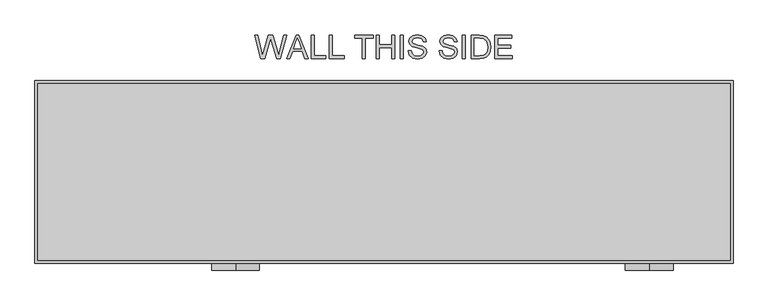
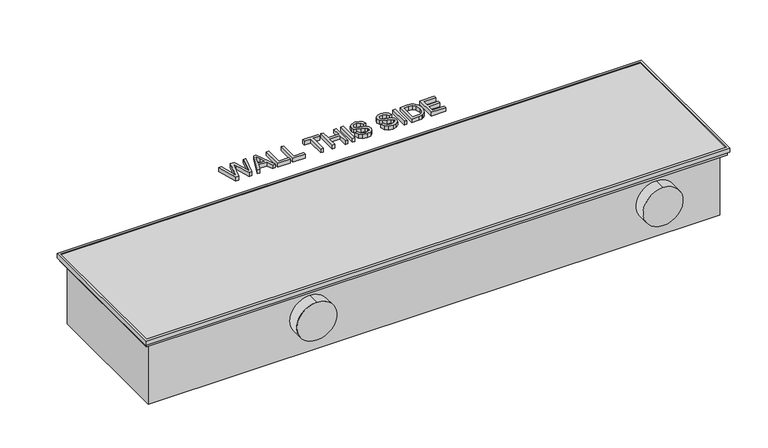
"""IFC4 building model written with IfcOpenShell, lengths in millimetres: unitary equipment geometry, VERANO CVK4P-II : CVK4P-18/35-II."""

import ifcopenshell
import ifcopenshell.guid

model = None  # the IFC model being written
_history = None  # IfcOwnerHistory: only IFC2X3 demands one
_inside = {}  # id of a spatial element -> (the spatial element, [elements in it])
_under = {}  # id of a project, library or spatial element -> (it, [spatial elements below it])
_declared = {}  # id of a project -> (the project, [libraries it declares])
_typed = {}  # id of a type object -> (the type object, [elements of that type])
_made_of = {}  # id of a material, layer set ... -> (it, [elements and type objects made of it])


def new_model(schema):
    """Start an empty IFC model of exactly this schema.

    Asked for "IFC4X3", IfcOpenShell would pick the latest addendum, in which some entities
    have other attributes; the version numbers below select the first issue.
    IFC2X3 requires an IfcOwnerHistory on every rooted entity: one is made here for all.
    """
    global model, _history
    if schema == "IFC4X3":
        model = ifcopenshell.file(schema_version=(4, 3, 0, 0))
    else:
        model = ifcopenshell.file(schema=schema)
    _inside.clear()
    _under.clear()
    _declared.clear()
    _typed.clear()
    _made_of.clear()
    _history = None
    if model.schema == "IFC2X3":
        org = make("IfcOrganization", Name="unknown")
        user = make(
            "IfcPersonAndOrganization",
            ThePerson=make("IfcPerson", FamilyName="unknown"),
            TheOrganization=org,
        )
        app = make(
            "IfcApplication",
            ApplicationDeveloper=org,
            Version="unknown",
            ApplicationFullName="unknown",
            ApplicationIdentifier="unknown",
        )
        _history = make(
            "IfcOwnerHistory",
            OwningUser=user,
            OwningApplication=app,
            ChangeAction="ADDED",
            CreationDate=0,
        )
    return model


def make(cls, **values):
    """One entity of the class cls with the attributes given. An attribute that is None is left unset."""
    return model.create_entity(
        cls, **{name: value for name, value in values.items() if value is not None}
    )


def rooted(cls, **values):
    """An entity with a GlobalId (a new one), such as an element, a storey or a relation."""
    return make(cls, GlobalId=ifcopenshell.guid.new(), OwnerHistory=_history, **values)


def si_unit(unit_type, name, prefix=None):
    """IfcSIUnit, for example si_unit("LENGTHUNIT", "METRE", prefix="MILLI")."""
    return make("IfcSIUnit", UnitType=unit_type, Prefix=prefix, Name=name)


def assignment(units):
    """IfcUnitAssignment: the units of a project."""
    return None if units is None else make("IfcUnitAssignment", Units=units)


def point(xyz):
    """IfcCartesianPoint."""
    return None if xyz is None else make("IfcCartesianPoint", Coordinates=xyz)


def direction(xyz):
    """IfcDirection."""
    return None if xyz is None else make("IfcDirection", DirectionRatios=xyz)


def frame(location, z_axis=None, x_axis=None):
    """IfcAxis2Placement3D, a coordinate frame: its origin and axes. An axis left out is left unset."""
    return make(
        "IfcAxis2Placement3D",
        Location=point(location),
        Axis=direction(z_axis),
        RefDirection=direction(x_axis),
    )


def frame_2d(location, x_axis=None):
    """IfcAxis2Placement2D, a coordinate frame in the plane: its origin and x axis."""
    return make(
        "IfcAxis2Placement2D", Location=point(location), RefDirection=direction(x_axis)
    )


def origin():
    """The frame at (0, 0, 0) with its axes left unset."""
    return frame((0.0, 0.0, 0.0))


def origin_with_axes():
    """The frame at (0, 0, 0) with the z axis (0, 0, 1) and the x axis (1, 0, 0) written out."""
    return frame((0.0, 0.0, 0.0), z_axis=(0.0, 0.0, 1.0), x_axis=(1.0, 0.0, 0.0))


def place(relative_to, where):
    """IfcLocalPlacement: puts the frame where relative to a parent placement (None: the world)."""
    return make(
        "IfcLocalPlacement", PlacementRelTo=relative_to, RelativePlacement=where
    )


def context(
    kind, dimensions, precision=None, world=None, true_north=None, identifier=None
):
    """IfcGeometricRepresentationContext, for example the 3D "Model" context."""
    return make(
        "IfcGeometricRepresentationContext",
        ContextIdentifier=identifier,
        ContextType=kind,
        CoordinateSpaceDimension=dimensions,
        Precision=precision,
        WorldCoordinateSystem=world,
        TrueNorth=true_north,
    )


def project(units=None, contexts=None):
    """IfcProject with its units and contexts."""
    return rooted(
        "IfcProject",
        Name="project",
        RepresentationContexts=contexts,
        UnitsInContext=assignment(units),
    )


def spatial(cls, under=None, at=None, **own):
    """A site, building, storey or space (cls), placed at a placement, below another one or the project."""
    s = rooted(cls, ObjectPlacement=at, **own)
    if under is not None:
        _under.setdefault(under.id(), (under, []))[1].append(s)
    return s


def polyline(points):
    """IfcPolyline through the points."""
    return make("IfcPolyline", Points=[point(p) for p in points])


def circle_curve(where, radius):
    """IfcCircle in the frame where."""
    return make("IfcCircle", Position=where, Radius=radius)


def trimmed(basis, trim1, trim2, sense, master):
    """IfcTrimmedCurve: the piece of a basis curve between two trims."""
    return make(
        "IfcTrimmedCurve",
        BasisCurve=basis,
        Trim1=trim1,
        Trim2=trim2,
        SenseAgreement=sense,
        MasterRepresentation=master,
    )


def segment(curve, same_sense, transition):
    """IfcCompositeCurveSegment."""
    return make(
        "IfcCompositeCurveSegment",
        Transition=transition,
        SameSense=same_sense,
        ParentCurve=curve,
    )


def composite_curve(segments, self_intersect=None):
    """IfcCompositeCurve: segments joined end to end."""
    return make("IfcCompositeCurve", Segments=segments, SelfIntersect=self_intersect)


def outline(outer, holes=None, kind="AREA"):
    """IfcArbitraryClosedProfileDef: a profile drawn as a closed curve; with holes, ...WithVoids."""
    if holes is None:
        return make("IfcArbitraryClosedProfileDef", ProfileType=kind, OuterCurve=outer)
    return make(
        "IfcArbitraryProfileDefWithVoids",
        ProfileType=kind,
        OuterCurve=outer,
        InnerCurves=holes,
    )


def extrude(swept, where, along, depth):
    """IfcExtrudedAreaSolid: the profile swept, set in the frame where, extruded along a direction by depth."""
    return make(
        "IfcExtrudedAreaSolid",
        SweptArea=swept,
        Position=where,
        ExtrudedDirection=direction(along),
        Depth=depth,
    )


def faces_of(points, faces, orient=None, outer=None):
    """IfcFace entities. A face is a list of loops; a loop is a list of indices into points, from 0.

    orient and outer hold one flag for each loop. By default every Orientation is true, the
    first loop of a face is its IfcFaceOuterBound and the others are IfcFaceBound.
    """
    made = []
    for i, loops in enumerate(faces):
        bounds = []
        for j, loop in enumerate(loops):
            is_outer = j == 0 if outer is None else outer[i][j]
            bounds.append(
                make(
                    "IfcFaceOuterBound" if is_outer else "IfcFaceBound",
                    Bound=make("IfcPolyLoop", Polygon=[points[k] for k in loop]),
                    Orientation=True if orient is None else orient[i][j],
                )
            )
        made.append(make("IfcFace", Bounds=bounds))
    return made


def faceted_brep(points, faces, orient=None, outer=None, voids=None):
    """IfcFacetedBrep: a solid bounded by flat faces; with voids (closed shells), ...WithVoids."""
    shared = [point(p) for p in points]
    hull = make("IfcClosedShell", CfsFaces=faces_of(shared, faces, orient, outer))
    if voids is None:
        return make("IfcFacetedBrep", Outer=hull)
    return make(
        "IfcFacetedBrepWithVoids",
        Outer=hull,
        Voids=[
            make(cls, CfsFaces=faces_of(shared, fs, o, b)) for cls, fs, o, b in voids
        ],
    )


def shape(context_of_items, identifier, shape_type, items):
    """IfcShapeRepresentation: the items that make up one representation, for example the "Body"."""
    return make(
        "IfcShapeRepresentation",
        ContextOfItems=context_of_items,
        RepresentationIdentifier=identifier,
        RepresentationType=shape_type,
        Items=items,
    )


def source(mapping_origin, context_of_items, identifier, shape_type, items):
    """IfcRepresentationMap: a shape defined once, which mapped items show again and again."""
    return make(
        "IfcRepresentationMap",
        MappingOrigin=mapping_origin,
        MappedRepresentation=shape(context_of_items, identifier, shape_type, items),
    )


def transform(
    local_origin,
    x_axis=None,
    y_axis=None,
    z_axis=None,
    scale=None,
    scale2=None,
    scale3=None,
    uniform=True,
):
    """IfcCartesianTransformationOperator3D, or its non-uniform kind. x_axis, y_axis, z_axis: its Axis1, 2, 3."""
    if uniform:
        return make(
            "IfcCartesianTransformationOperator3D",
            Axis1=direction(x_axis),
            Axis2=direction(y_axis),
            LocalOrigin=point(local_origin),
            Scale=scale,
            Axis3=direction(z_axis),
        )
    return make(
        "IfcCartesianTransformationOperator3DnonUniform",
        Axis1=direction(x_axis),
        Axis2=direction(y_axis),
        LocalOrigin=point(local_origin),
        Scale=scale,
        Axis3=direction(z_axis),
        Scale2=scale2,
        Scale3=scale3,
    )


def mapped(mapping_source, mapping_target):
    """IfcMappedItem: shows the shape of a source again, moved by a transform."""
    return make(
        "IfcMappedItem", MappingSource=mapping_source, MappingTarget=mapping_target
    )


def made_of(thing, what):
    """Note that an element or type object is made of a material, layer set ...; save() writes the relation."""
    if what is not None:
        _made_of.setdefault(what.id(), (what, []))[1].append(thing)
    return thing


def element(
    cls,
    number,
    at=None,
    inside=None,
    cuts=None,
    type_object=None,
    material=None,
    context=None,
    identifier="Body",
    shape_type=None,
    held_by="IfcProductDefinitionShape",
    body=None,
    shapes=None,
    **own,
):
    """One element of the class cls, such as IfcWall. Its Tag is "e" and its number.

    at: its placement. inside: the storey or other place that contains it. cuts: it is an
    opening in that element (IfcRelVoidsElement). A single representation is given by context,
    identifier, shape_type and body (its items); several are given by shapes. held_by: the class
    of the entity that holds the representations. save() writes the other relations.
    """
    e = rooted(cls, Tag="e%d" % number, ObjectPlacement=at, **own)
    if body is not None:
        shapes = [shape(context, identifier, shape_type, body)]
    if shapes is not None:
        e.Representation = make(held_by, Representations=shapes)
    if inside is not None:
        _inside.setdefault(inside.id(), (inside, []))[1].append(e)
    if cuts is not None:
        rooted(
            "IfcRelVoidsElement", RelatingBuildingElement=cuts, RelatedOpeningElement=e
        )
    if type_object is not None:
        _typed.setdefault(type_object.id(), (type_object, []))[1].append(e)
    return made_of(e, material)


def aggregate(whole, parts):
    """IfcRelAggregates: a whole, such as a stair, and the parts it consists of."""
    return rooted("IfcRelAggregates", RelatingObject=whole, RelatedObjects=parts)


def save(model, path):
    """Write the relations noted so far, then the file.

    IfcRelAggregates (storeys below a building ...), IfcRelContainedInSpatialStructure (elements
    in a storey), IfcRelDefinesByType, IfcRelAssociatesMaterial and IfcRelDeclares: one each for
    every whole, place, type object, material and project.
    """
    for whole, parts in _under.values():
        aggregate(whole, parts)
    for where, things in _inside.values():
        rooted(
            "IfcRelContainedInSpatialStructure",
            RelatedElements=things,
            RelatingStructure=where,
        )
    for kind, things in _typed.values():
        rooted("IfcRelDefinesByType", RelatedObjects=things, RelatingType=kind)
    for what, things in _made_of.values():
        rooted("IfcRelAssociatesMaterial", RelatedObjects=things, RelatingMaterial=what)
    for by, libraries in _declared.values():
        rooted("IfcRelDeclares", RelatingContext=by, RelatedDefinitions=libraries)
    model.write(path)


def unitary_equipment_7f352352(model_context):
    return source(origin(), model_context, "Body", "SolidModel", [
        extrude(outline(composite_curve([segment(trimmed(circle_curve(frame_2d((-84.0, 554.0)), 50.0), [point((-34.0, 554.0))], [point((-134.0, 554.0))], False, "CARTESIAN"), True, "CONTINUOUS"), segment(trimmed(circle_curve(frame_2d((-84.0, 554.0)), 50.0), [point((-134.0, 554.0))], [point((-34.0, 554.0))], False, "CARTESIAN"), True, "CONTINUOUS")], self_intersect=False)), frame((0.0, -205.0, 0.0), z_axis=(0.0, 1.0, 0.0), x_axis=(0.0, 0.0, 1.0)), (0.0, 0.0, 1.0), 30.0),
        extrude(outline(composite_curve([segment(trimmed(circle_curve(frame_2d((-84.0, -310.0)), 50.0), [point((-34.0, -310.0))], [point((-134.0, -310.0))], False, "CARTESIAN"), True, "CONTINUOUS"), segment(trimmed(circle_curve(frame_2d((-84.0, -310.0)), 50.0), [point((-134.0, -310.0))], [point((-34.0, -310.0))], False, "CARTESIAN"), True, "CONTINUOUS")], self_intersect=False)), frame((0.0, -205.0, 0.0), z_axis=(0.0, 1.0, 0.0), x_axis=(0.0, 0.0, 1.0)), (0.0, 0.0, 1.0), 30.0),
        extrude(outline(composite_curve([segment(trimmed(circle_curve(frame_2d((25.0, -81.0)), 10.0), [point((25.0, -71.0))], [point((25.0, -91.0))], False, "CARTESIAN"), True, "CONTINUOUS"), segment(trimmed(circle_curve(frame_2d((25.0, -81.0)), 10.0), [point((25.0, -91.0))], [point((25.0, -71.0))], False, "CARTESIAN"), True, "CONTINUOUS")], self_intersect=False)), frame((-577.0, 0.0, 0.0), z_axis=(1.0, 0.0, 0.0), x_axis=(0.0, 1.0, 0.0)), (0.0, 0.0, 1.0), 70.0),
        extrude(outline(composite_curve([segment(trimmed(circle_curve(frame_2d((155.0, -103.0)), 10.0), [point((155.0, -93.0))], [point((155.0, -113.0))], False, "CARTESIAN"), True, "CONTINUOUS"), segment(trimmed(circle_curve(frame_2d((155.0, -103.0)), 10.0), [point((155.0, -113.0))], [point((155.0, -93.0))], False, "CARTESIAN"), True, "CONTINUOUS")], self_intersect=False)), frame((-577.0, 0.0, 0.0), z_axis=(1.0, 0.0, 0.0), x_axis=(0.0, 1.0, 0.0)), (0.0, 0.0, 1.0), 70.0),
        extrude(outline(polyline([(-517.0, -25.0), (-517.0, -5.0), (-507.0, -5.0), (-507.0, -25.0), (-517.0, -25.0)])), frame((0.0, 0.0, -170.0), z_axis=(0.0, 0.0, 1.0), x_axis=(1.0, 0.0, 0.0)), (0.0, 0.0, 1.0), 10.0),
        faceted_brep([(723.0, -185.0, -16.5), (723.0, -185.0, 1.5), (723.0, 185.0, 1.5), (723.0, 185.0, -16.5), (724.0, -186.0, 0.0), (724.0, -186.0, -16.5), (724.0, 186.0, -16.5), (724.0, 186.0, 0.0), (728.0, -190.0, -10.0), (728.0, -190.0, 0.0), (728.0, 190.0, 0.0), (728.0, 190.0, -10.0), (729.0, -191.0, 1.5), (729.0, -191.0, -10.0), (729.0, 191.0, -10.0), (729.0, 191.0, 1.5), (-723.0, 185.0, 1.5), (-723.0, 185.0, -16.5), (-724.0, 186.0, -16.5), (-724.0, 186.0, 0.0), (-728.0, 190.0, 0.0), (-728.0, 190.0, -10.0), (-729.0, 191.0, -10.0), (-729.0, 191.0, 1.5), (-723.0, -185.0, 1.5), (-723.0, -185.0, -16.5), (-724.0, -186.0, -16.5), (-724.0, -186.0, 0.0), (-728.0, -190.0, 0.0), (-728.0, -190.0, -10.0), (-729.0, -191.0, -10.0), (-729.0, -191.0, 1.5)], [[[0, 1, 2, 3]], [[4, 5, 6, 7]], [[8, 9, 10, 11]], [[12, 13, 14, 15]], [[3, 2, 16, 17]], [[7, 6, 18, 19]], [[11, 10, 20, 21]], [[15, 14, 22, 23]], [[17, 16, 24, 25]], [[19, 18, 26, 27]], [[21, 20, 28, 29]], [[23, 22, 30, 31]], [[15, 23, 31, 12], [1, 24, 16, 2]], [[25, 24, 1, 0]], [[5, 26, 18, 6], [3, 17, 25, 0]], [[27, 26, 5, 4]], [[9, 28, 20, 10], [7, 19, 27, 4]], [[29, 28, 9, 8]], [[13, 30, 22, 14], [11, 21, 29, 8]], [[31, 30, 13, 12]]]),
        extrude(outline(composite_curve([segment(trimmed(circle_curve(frame_2d((28.0, -47.0)), 10.0), [point((28.0, -37.0))], [point((28.0, -57.0))], False, "CARTESIAN"), True, "CONTINUOUS"), segment(trimmed(circle_curve(frame_2d((28.0, -47.0)), 10.0), [point((28.0, -57.0))], [point((28.0, -37.0))], False, "CARTESIAN"), True, "CONTINUOUS")], self_intersect=False)), frame((-577.0, 0.0, 0.0), z_axis=(1.0, 0.0, 0.0), x_axis=(0.0, 1.0, 0.0)), (0.0, 0.0, 1.0), 70.0),
        extrude(outline(composite_curve([segment(trimmed(circle_curve(frame_2d((113.0, -114.0)), 10.0), [point((113.0, -104.0))], [point((113.0, -124.0))], False, "CARTESIAN"), True, "CONTINUOUS"), segment(trimmed(circle_curve(frame_2d((113.0, -114.0)), 10.0), [point((113.0, -124.0))], [point((113.0, -104.0))], False, "CARTESIAN"), True, "CONTINUOUS")], self_intersect=False)), frame((-577.0, 0.0, 0.0), z_axis=(1.0, 0.0, 0.0), x_axis=(0.0, 1.0, 0.0)), (0.0, 0.0, 1.0), 70.0),
        extrude(outline(polyline([(-256.9591346, 237.0), (-270.3846154, 286.2307692), (-264.0384615, 286.2307692), (-256.25, 253.875), (-253.8461538, 243.8870192), (-251.2740385, 252.7211538), (-241.5144231, 286.2307692), (-232.3677885, 286.2307692), (-225.2764423, 261.9399038), (-220.0, 243.8870192), (-217.6682692, 253.5865385), (-209.8076923, 286.2307692), (-203.4615385, 286.2307692), (-216.8990385, 237.0), (-223.4735577, 237.0), (-235.2764423, 274.9807692), (-236.9230769, 280.28125), (-238.7740385, 273.8990385), (-249.53125, 237.0), (-256.9591346, 237.0)])), origin_with_axes(), (0.0, 0.0, 1.0), 10.0),
        extrude(outline(polyline([(-203.0408654, 237.0), (-183.3894231, 286.2307692), (-178.1490385, 286.2307692), (-158.4975962, 237.0), (-165.0, 237.0), (-170.6370192, 252.3846154), (-190.9134615, 252.3846154), (-196.5384615, 237.0), (-203.0408654, 237.0)]), holes=[polyline([(-188.6538462, 258.5384615), (-172.8846154, 258.5384615), (-177.3197115, 270.6418269), (-180.7692308, 280.0769231), (-183.8341346, 271.6995192), (-188.6538462, 258.5384615)])]), origin_with_axes(), (0.0, 0.0, 1.0), 10.0),
        extrude(outline(polyline([(-151.9230769, 237.0), (-151.9230769, 286.2307692), (-145.7692308, 286.2307692), (-145.7692308, 243.1538462), (-121.1538462, 243.1538462), (-121.1538462, 237.0), (-151.9230769, 237.0)])), origin_with_axes(), (0.0, 0.0, 1.0), 10.0),
        extrude(outline(polyline([(-114.2307692, 237.0), (-114.2307692, 286.2307692), (-108.0769231, 286.2307692), (-108.0769231, 243.1538462), (-83.4615385, 243.1538462), (-83.4615385, 237.0), (-114.2307692, 237.0)])), origin_with_axes(), (0.0, 0.0, 1.0), 10.0),
        extrude(outline(polyline([(-45.0, 237.0), (-45.0, 280.0769231), (-61.1538462, 280.0769231), (-61.1538462, 286.2307692), (-22.6923077, 286.2307692), (-22.6923077, 280.0769231), (-38.8461538, 280.0769231), (-38.8461538, 237.0), (-45.0, 237.0)])), origin_with_axes(), (0.0, 0.0, 1.0), 10.0),
        extrude(outline(polyline([(-15.7692308, 237.0), (-15.7692308, 286.2307692), (-9.6153846, 286.2307692), (-9.6153846, 266.2307692), (16.5384615, 266.2307692), (16.5384615, 286.2307692), (22.6923077, 286.2307692), (22.6923077, 237.0), (16.5384615, 237.0), (16.5384615, 260.0769231), (-9.6153846, 260.0769231), (-9.6153846, 237.0), (-15.7692308, 237.0)])), origin_with_axes(), (0.0, 0.0, 1.0), 10.0),
        extrude(outline(polyline([(34.2307692, 237.0), (34.2307692, 286.2307692), (40.3846154, 286.2307692), (40.3846154, 237.0), (34.2307692, 237.0)])), origin_with_axes(), (0.0, 0.0, 1.0), 10.0),
        extrude(outline(polyline([(50.3846154, 253.9230769), (56.5384615, 253.9230769), (58.5216346, 247.7632212), (63.3653846, 243.8689904), (70.7451923, 242.3846154), (77.1754808, 243.5084135), (81.328125, 246.5973558), (82.6923077, 250.7259615), (81.6706731, 254.5661058), (77.4879808, 257.3605769), (68.5276442, 259.7103365), (58.8822115, 262.7451923), (53.6478365, 267.3245192), (51.9230769, 273.4423077), (54.0564904, 280.4074519), (60.2884615, 285.3233173), (69.4110577, 287.0), (79.1466346, 285.2451923), (85.6370192, 280.0889423), (88.0769231, 272.3846154), (81.9230769, 272.3846154), (78.4375, 278.7067308), (69.6514423, 280.8461538), (60.8413462, 278.7307692), (58.0769231, 273.6225962), (60.0360577, 269.3557692), (70.0841346, 265.9182692), (80.9735577, 262.8293269), (86.9290865, 257.8413462), (88.8461538, 250.8822115), (86.640625, 243.5204327), (80.2944712, 238.1478365), (70.9855769, 236.2307692), (59.9939904, 238.2980769), (53.0408654, 244.5240385), (50.3846154, 253.9230769)])), origin_with_axes(), (0.0, 0.0, 1.0), 10.0),
        extrude(outline(polyline([(115.0, 253.9230769), (121.1538462, 253.9230769), (123.1370192, 247.7632212), (127.9807692, 243.8689904), (135.3605769, 242.3846154), (141.7908654, 243.5084135), (145.9435096, 246.5973558), (147.3076923, 250.7259615), (146.2860577, 254.5661058), (142.1033654, 257.3605769), (133.1430288, 259.7103365), (123.4975962, 262.7451923), (118.2632212, 267.3245192), (116.5384615, 273.4423077), (118.671875, 280.4074519), (124.9038462, 285.3233173), (134.0264423, 287.0), (143.7620192, 285.2451923), (150.2524038, 280.0889423), (152.6923077, 272.3846154), (146.5384615, 272.3846154), (143.0528846, 278.7067308), (134.2668269, 280.8461538), (125.4567308, 278.7307692), (122.6923077, 273.6225962), (124.6514423, 269.3557692), (134.6995192, 265.9182692), (145.5889423, 262.8293269), (151.5444712, 257.8413462), (153.4615385, 250.8822115), (151.2560096, 243.5204327), (144.9098558, 238.1478365), (135.6009615, 236.2307692), (124.609375, 238.2980769), (117.65625, 244.5240385), (115.0, 253.9230769)])), origin_with_axes(), (0.0, 0.0, 1.0), 10.0),
        extrude(outline(polyline([(163.4615385, 237.0), (163.4615385, 286.2307692), (169.6153846, 286.2307692), (169.6153846, 237.0), (163.4615385, 237.0)])), origin_with_axes(), (0.0, 0.0, 1.0), 10.0),
        extrude(outline(polyline([(181.9230769, 237.0), (181.9230769, 286.2307692), (198.90625, 286.2307692), (207.6923077, 285.5216346), (214.9278846, 282.0), (220.7572115, 273.5865385), (222.6923077, 261.8798077), (221.3822115, 251.9459135), (218.0168269, 244.7764423), (213.5216346, 240.3112981), (207.6382212, 237.8413462), (199.7235577, 237.0), (181.9230769, 237.0)]), holes=[polyline([(188.0769231, 243.1538462), (198.9663462, 243.1538462), (206.8870192, 244.0432692), (211.4543269, 246.5552885), (215.1983173, 252.6670673), (216.5384615, 261.9759615), (213.9122596, 273.6346154), (207.5240385, 279.0913462), (198.7980769, 280.0769231), (188.0769231, 280.0769231), (188.0769231, 243.1538462)])]), origin_with_axes(), (0.0, 0.0, 1.0), 10.0),
        extrude(outline(polyline([(231.1538462, 237.0), (231.1538462, 286.2307692), (266.5384615, 286.2307692), (266.5384615, 280.0769231), (237.3076923, 280.0769231), (237.3076923, 265.4615385), (265.0, 265.4615385), (265.0, 259.3076923), (237.3076923, 259.3076923), (237.3076923, 243.1538462), (267.3076923, 243.1538462), (267.3076923, 237.0), (231.1538462, 237.0)])), origin_with_axes(), (0.0, 0.0, 1.0), 10.0),
        extrude(outline(polyline([(663.0, 175.0), (663.0, -162.0), (-507.0, -162.0), (-507.0, 175.0), (663.0, 175.0)])), frame((0.0, 0.0, -179.0), z_axis=(0.0, 0.0, 1.0), x_axis=(1.0, 0.0, 0.0)), (0.0, 0.0, 1.0), 161.0),
        extrude(outline(polyline([(725.0, 187.0), (725.0, -187.0), (-725.0, -187.0), (-725.0, 187.0), (725.0, 187.0)])), frame((0.0, 0.0, -18.0), z_axis=(0.0, 0.0, 1.0), x_axis=(1.0, 0.0, 0.0)), (0.0, 0.0, 1.0), 18.0),
        faceted_brep([(712.0, -174.0, -17.0), (712.0, 174.0, -17.0), (712.0, 174.0, -179.0), (712.0, -174.0, -179.0), (725.0, -187.0, 0.0), (725.0, -187.0, -18.0), (725.0, 187.0, -18.0), (725.0, 187.0, 0.0), (724.0, -186.0, -17.0), (724.0, -186.0, 0.0), (724.0, 186.0, 0.0), (724.0, 186.0, -17.0), (713.0, -175.0, -18.0), (713.0, -175.0, -180.0), (713.0, 175.0, -180.0), (713.0, 175.0, -18.0), (-725.0, 187.0, -18.0), (-725.0, 187.0, 0.0), (-724.0, 186.0, 0.0), (-724.0, 186.0, -17.0), (-713.0, 175.0, -180.0), (-713.0, 175.0, -18.0), (-712.0, 174.0, -17.0), (-712.0, 174.0, -179.0), (-725.0, -187.0, -18.0), (-725.0, -187.0, 0.0), (-724.0, -186.0, 0.0), (-724.0, -186.0, -17.0), (-713.0, -175.0, -180.0), (-713.0, -175.0, -18.0), (-712.0, -174.0, -17.0), (-712.0, -174.0, -179.0)], [[[0, 1, 2, 3]], [[4, 5, 6, 7]], [[8, 9, 10, 11]], [[12, 13, 14, 15]], [[7, 6, 16, 17]], [[11, 10, 18, 19]], [[15, 14, 20, 21]], [[1, 22, 23, 2]], [[17, 16, 24, 25]], [[19, 18, 26, 27]], [[21, 20, 28, 29]], [[22, 30, 31, 23]], [[8, 11, 19, 27], [1, 0, 30, 22]], [[5, 4, 25, 24]], [[4, 7, 17, 25], [10, 9, 26, 18]], [[9, 8, 27, 26]], [[6, 5, 24, 16], [12, 15, 21, 29]], [[13, 12, 29, 28]], [[14, 13, 28, 20]], [[30, 0, 3, 31]], [[3, 2, 23, 31]]]),
    ])


if __name__ == "__main__":
    model = new_model("IFC4")
    model_context = context("Model", 3, world=origin())
    ifc_project = project(units=[si_unit("LENGTHUNIT", "METRE", prefix="MILLI")], contexts=[model_context])
    site = spatial("IfcSite", under=ifc_project)
    building = spatial("IfcBuilding", under=site)
    placement = place(None, origin())
    unitary_equipment_shape = unitary_equipment_7f352352(model_context)
    element("IfcUnitaryEquipment", 1, ObjectType="VERANO CVK4P-II : CVK4P-18/35-II", at=placement, inside=building, context=model_context, shape_type="MappedRepresentation", body=[
        mapped(unitary_equipment_shape, transform((0.0, 0.0, 0.0), x_axis=(1.0, 0.0, 0.0), y_axis=(0.0, 1.0, 0.0), z_axis=(0.0, 0.0, 1.0))),
    ])
    save(model, "model.ifc")
